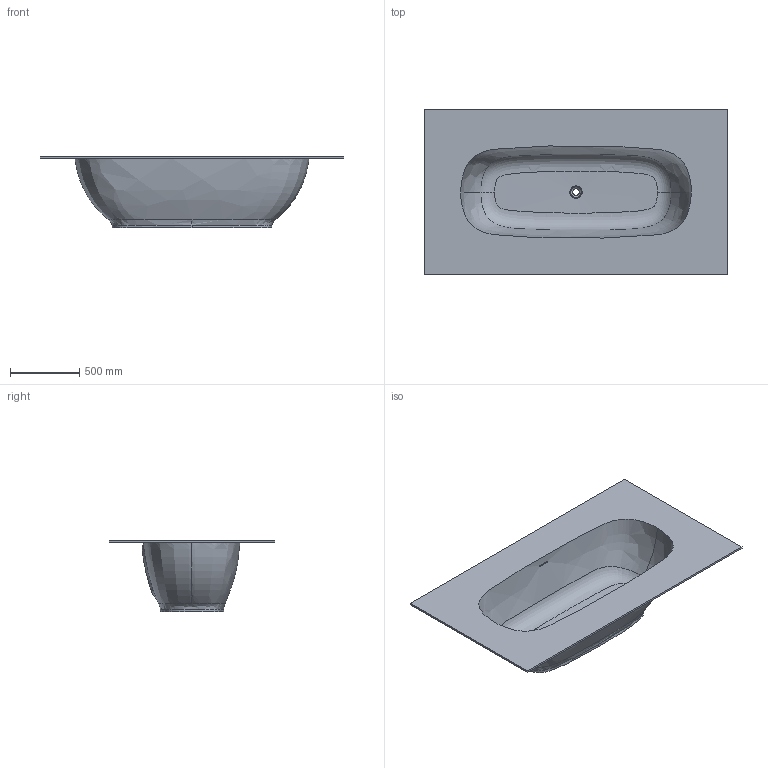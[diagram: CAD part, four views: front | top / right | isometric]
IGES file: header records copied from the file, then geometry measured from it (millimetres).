
Start section: Data from Parasolid IGES Translator 22.0.50, Copyright(c) 2006 Siemens P LM Software. All Rights Reserved.
Global section: file name: noorth-bathtub-H52 D82-120 W181-220_5665.igs; native system: By Siemens PLM Incorporated; preprocessor: XPlus GENERIC/IGES 22.0.50; author: Noname; organization: Noname; date: 20250706.160806; units: metre
Bounding box: 2200 x 1200 x 520 mm (x, y, z)
Volume: 71644867.3 mm3; surface area: 8143058.1 mm2
Topology: 1 solids, 1 shells, 170 faces, 425 edges, 256 vertices
Faces by surface type: bspline 119, plane 32, cylinder 9, cone 9, torus 1
Full cylindrical faces by diameter (mm): 49.885 x1
